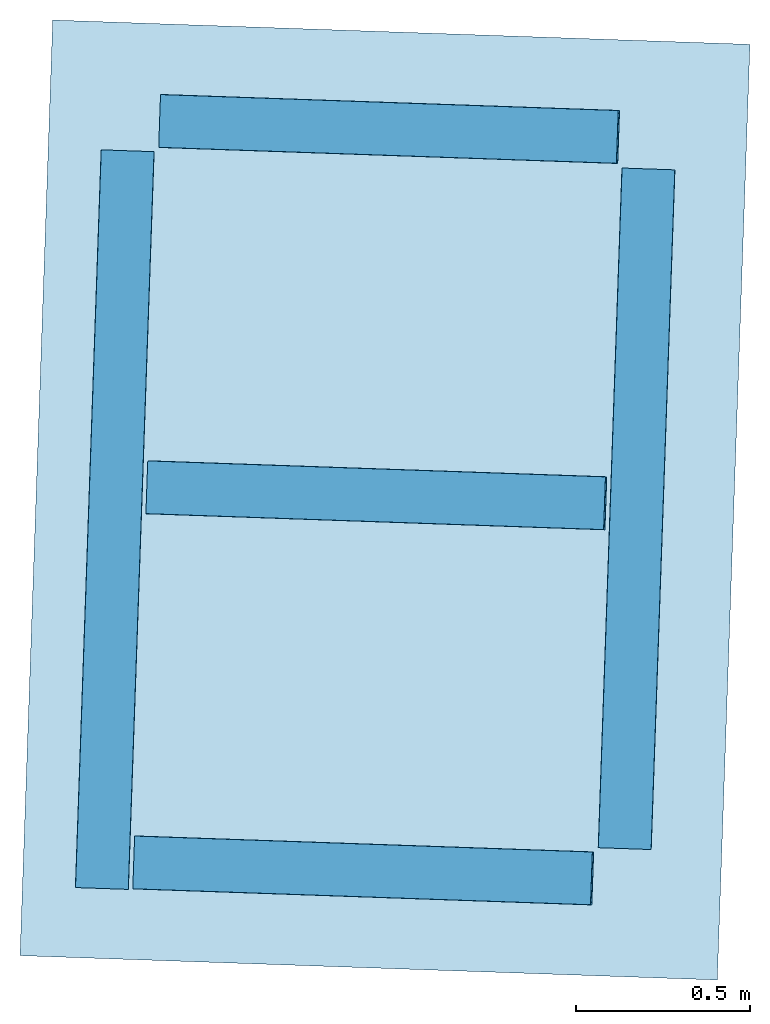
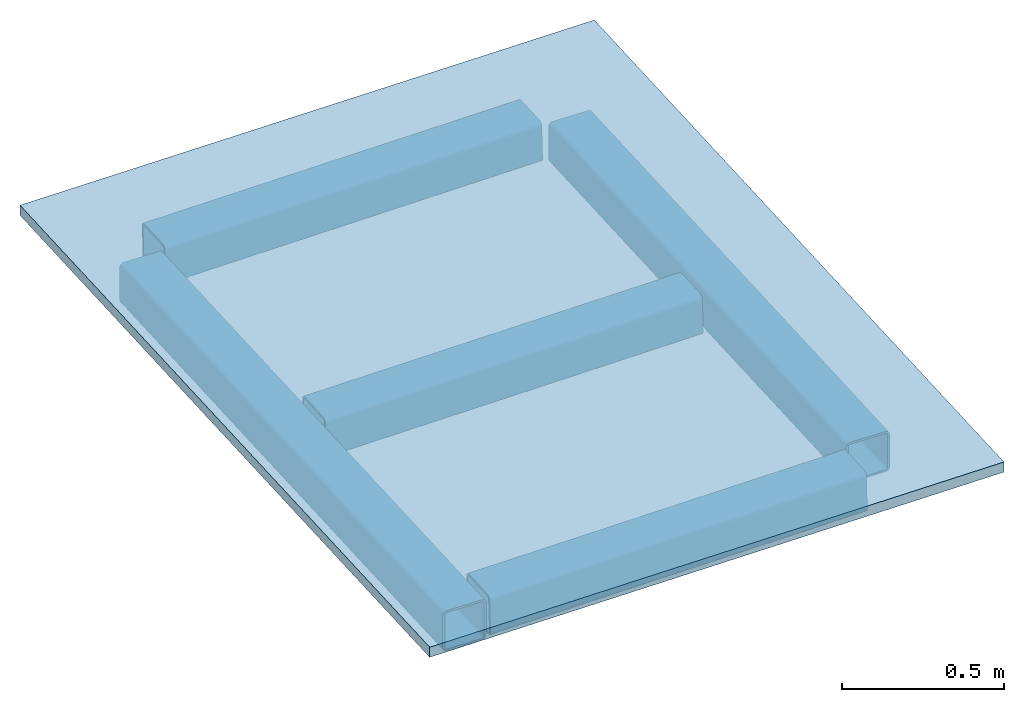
# One storey: 5 beams, 1 slab.
"""IFC2X3 building model written with IfcOpenShell, lengths in feet."""

from ifc_helpers import new_model, entity, si_unit, converted_unit, derived_unit, direction, frame, frame_2d, origin, place, context, subcontext, project, spatial, polyline, circle_curve, parameter, trimmed, segment, composite_curve, rectangle, outline, extrude, clip, halfspace, material, layer, layer_set, layer_usage, element, save


model = new_model("IFC2X3")

# Units and contexts
model_context = context("Model", 3, precision=0.0001, world=origin(), true_north=direction((0.999390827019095, 0.0348994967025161)))
body_context = subcontext(model_context, "Body", "Model", "MODEL_VIEW")
ifc_project = project(units=[converted_unit("LENGTHUNIT", "FOOT", entity("IfcRatioMeasure", 0.3048), si_unit("LENGTHUNIT", "METRE"), dimensions=[1, 0, 0, 0, 0, 0, 0]), converted_unit("AREAUNIT", "SQUARE FOOT", entity("IfcRatioMeasure", 0.09290304), si_unit("AREAUNIT", "SQUARE_METRE"), dimensions=[2, 0, 0, 0, 0, 0, 0]), converted_unit("VOLUMEUNIT", "CUBIC FOOT", entity("IfcRatioMeasure", 0.028316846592), si_unit("VOLUMEUNIT", "CUBIC_METRE"), dimensions=[3, 0, 0, 0, 0, 0, 0]), converted_unit("PLANEANGLEUNIT", "DEGREE", entity("IfcRatioMeasure", 0.0174532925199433), si_unit("PLANEANGLEUNIT", "RADIAN"), dimensions=[0, 0, 0, 0, 0, 0, 0]), si_unit("MASSUNIT", "GRAM", prefix="KILO"), si_unit("TIMEUNIT", "SECOND"), si_unit("FREQUENCYUNIT", "HERTZ"), si_unit("THERMODYNAMICTEMPERATUREUNIT", "DEGREE_CELSIUS"), derived_unit("THERMALTRANSMITTANCEUNIT", [(si_unit("MASSUNIT", "GRAM", prefix="KILO"), 1), (si_unit("THERMODYNAMICTEMPERATUREUNIT", "KELVIN"), -1), (si_unit("TIMEUNIT", "SECOND"), -3)]), derived_unit("VOLUMETRICFLOWRATEUNIT", [(si_unit("LENGTHUNIT", "METRE"), 3), (si_unit("TIMEUNIT", "SECOND"), -1)]), si_unit("ELECTRICCURRENTUNIT", "AMPERE"), si_unit("ELECTRICVOLTAGEUNIT", "VOLT"), si_unit("POWERUNIT", "WATT"), si_unit("FORCEUNIT", "NEWTON"), si_unit("ILLUMINANCEUNIT", "LUX"), si_unit("LUMINOUSFLUXUNIT", "LUMEN"), si_unit("LUMINOUSINTENSITYUNIT", "CANDELA"), derived_unit("USERDEFINED", [(si_unit("MASSUNIT", "GRAM", prefix="KILO"), -1), (si_unit("LENGTHUNIT", "METRE"), -2), (si_unit("TIMEUNIT", "SECOND"), 3), (si_unit("LUMINOUSFLUXUNIT", "LUMEN"), 1)]), derived_unit("LINEARVELOCITYUNIT", [(si_unit("LENGTHUNIT", "METRE"), 1), (si_unit("TIMEUNIT", "SECOND"), -1)]), si_unit("PRESSUREUNIT", "PASCAL"), derived_unit("USERDEFINED", [(si_unit("LENGTHUNIT", "METRE"), -2), (si_unit("MASSUNIT", "GRAM", prefix="KILO"), 1), (si_unit("TIMEUNIT", "SECOND"), -2)])], contexts=[model_context])

# Site, building, storey
site_placement = place(None, frame((892.518771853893, 322.38689265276, 0.00393700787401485), z_axis=(0.0, 0.0, 1.0), x_axis=(0.0348994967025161, 0.999390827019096, 0.0)))
site = spatial("IfcSite", under=ifc_project, at=site_placement, Name="Default", CompositionType="ELEMENT")
building_placement = place(site_placement, origin())
building = spatial("IfcBuilding", under=site, at=building_placement, CompositionType="ELEMENT")
storey_placement = place(building_placement, frame((0.0, 0.0, 617.0)))
storey = spatial("IfcBuildingStorey", under=building, at=storey_placement, Name="Exhaust Structure Roof", CompositionType="ELEMENT", Elevation=617.0)

# Beams
ifc_material_1 = material(Name="Metal - Steel - ASTM A500 - Grade B - Rectangular and Square")
beam_1_placement = place(storey_placement, frame((106.343959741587, 231.847286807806, 0.0), z_axis=(0.0, 0.0254155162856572, 0.999676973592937), x_axis=(0.0, 0.999676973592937, -0.0254155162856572)))
element("IfcBeam", 1, at=beam_1_placement, inside=storey, material=ifc_material_1, Name="05_HSS-Hollow Structural Section:HSS6x6x5/16", ObjectType="05_HSS-Hollow Structural Section:HSS6x6x5/16", context=body_context, shape_type="SweptSolid", body=[
    extrude(outline(composite_curve([segment(trimmed(circle_curve(frame_2d((-0.201500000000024, -0.201500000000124), x_axis=(1.0, 0.0)), 0.0485), [parameter(180.0)], [parameter(270.0)], True, "PARAMETER"), True, "CONTINUOUS"), segment(polyline([(-0.20150000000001, -0.250000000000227), (0.201499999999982, -0.250000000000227)]), True, "CONTINUOUS"), segment(trimmed(circle_curve(frame_2d((0.201499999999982, -0.201500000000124), x_axis=(1.0, 0.0)), 0.0485), [parameter(270.0)], [parameter(1.52666624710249e-13)], True, "PARAMETER"), True, "CONTINUOUS"), segment(polyline([(0.249999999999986, -0.201500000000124), (0.249999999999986, 0.201499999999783)]), True, "CONTINUOUS"), segment(trimmed(circle_curve(frame_2d((0.201499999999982, 0.201499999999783), x_axis=(1.0, 0.0)), 0.0485), [parameter(360.0)], [parameter(89.9999999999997)], True, "PARAMETER"), True, "CONTINUOUS"), segment(polyline([(0.201499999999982, 0.249999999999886), (-0.20150000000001, 0.249999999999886)]), True, "CONTINUOUS"), segment(trimmed(circle_curve(frame_2d((-0.201500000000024, 0.201499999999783), x_axis=(1.0, 0.0)), 0.0485), [parameter(90.0000000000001)], [parameter(180.0)], True, "PARAMETER"), True, "CONTINUOUS"), segment(polyline([(-0.250000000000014, 0.201499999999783), (-0.250000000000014, -0.201500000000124)]), True, "CONTINUOUS")], self_intersect=False), holes=[composite_curve([segment(polyline([(0.201499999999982, -0.225750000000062), (-0.20150000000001, -0.225750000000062)]), True, "CONTINUOUS"), segment(trimmed(circle_curve(frame_2d((-0.201500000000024, -0.201500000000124), x_axis=(1.0, 0.0)), 0.02425), [parameter(180.0)], [parameter(270.0)], True, "PARAMETER"), False, "CONTINUOUS"), segment(polyline([(-0.225750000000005, -0.201500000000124), (-0.225750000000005, 0.201499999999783)]), True, "CONTINUOUS"), segment(trimmed(circle_curve(frame_2d((-0.201500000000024, 0.201499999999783), x_axis=(1.0, 0.0)), 0.02425), [parameter(90.0000000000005)], [parameter(180.0)], True, "PARAMETER"), False, "CONTINUOUS"), segment(polyline([(-0.20150000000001, 0.225749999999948), (0.201499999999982, 0.225749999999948)]), True, "CONTINUOUS"), segment(trimmed(circle_curve(frame_2d((0.201499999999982, 0.201499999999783), x_axis=(1.0, 0.0)), 0.02425), [parameter(0.0)], [parameter(90.0000000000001)], True, "PARAMETER"), False, "CONTINUOUS"), segment(polyline([(0.225749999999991, 0.201499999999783), (0.225749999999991, -0.201500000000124)]), True, "CONTINUOUS"), segment(trimmed(circle_curve(frame_2d((0.201499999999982, -0.201500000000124), x_axis=(1.0, 0.0)), 0.02425), [parameter(270.0)], [parameter(4.07110999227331e-13)], True, "PARAMETER"), False, "CONTINUOUS")], self_intersect=False)]), frame((0.304459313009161, 0.0, -0.250000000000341), z_axis=(1.0, 0.0, 0.0), x_axis=(0.0, -1.0, 0.0)), (0.0, 0.0, 1.0), 4.3222101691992),
])
beam_2_placement = place(storey_placement, frame((113.343963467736, 231.847286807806, 0.0), z_axis=(0.0, 0.025415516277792, 0.999676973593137), x_axis=(0.0, 0.999676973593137, -0.025415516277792)))
element("IfcBeam", 2, at=beam_2_placement, inside=storey, material=ifc_material_1, Name="05_HSS-Hollow Structural Section:HSS6x6x5/16", ObjectType="05_HSS-Hollow Structural Section:HSS6x6x5/16", context=body_context, shape_type="SweptSolid", body=[
    extrude(outline(composite_curve([segment(trimmed(circle_curve(frame_2d((-0.201499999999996, -0.20150000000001), x_axis=(1.0, 0.0)), 0.0485), [parameter(180.0)], [parameter(270.0)], True, "PARAMETER"), True, "CONTINUOUS"), segment(polyline([(-0.201499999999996, -0.250000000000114), (0.201499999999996, -0.250000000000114)]), True, "CONTINUOUS"), segment(trimmed(circle_curve(frame_2d((0.20150000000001, -0.20150000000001), x_axis=(1.0, 0.0)), 0.0485), [parameter(270.0)], [parameter(1.52666624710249e-13)], True, "PARAMETER"), True, "CONTINUOUS"), segment(polyline([(0.25, -0.20150000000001), (0.25, 0.20150000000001)]), True, "CONTINUOUS"), segment(trimmed(circle_curve(frame_2d((0.20150000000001, 0.20150000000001), x_axis=(1.0, 0.0)), 0.0485), [parameter(360.0)], [parameter(89.9999999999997)], True, "PARAMETER"), True, "CONTINUOUS"), segment(polyline([(0.201499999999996, 0.249999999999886), (-0.201499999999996, 0.249999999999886)]), True, "CONTINUOUS"), segment(trimmed(circle_curve(frame_2d((-0.201499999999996, 0.20150000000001), x_axis=(1.0, 0.0)), 0.0485), [parameter(90.0000000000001)], [parameter(180.0)], True, "PARAMETER"), True, "CONTINUOUS"), segment(polyline([(-0.25, 0.20150000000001), (-0.25, -0.20150000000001)]), True, "CONTINUOUS")], self_intersect=False), holes=[composite_curve([segment(polyline([(0.201499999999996, -0.225750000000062), (-0.201499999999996, -0.225750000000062)]), True, "CONTINUOUS"), segment(trimmed(circle_curve(frame_2d((-0.201499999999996, -0.20150000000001), x_axis=(1.0, 0.0)), 0.02425), [parameter(180.0)], [parameter(270.0)], True, "PARAMETER"), False, "CONTINUOUS"), segment(polyline([(-0.225749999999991, -0.20150000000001), (-0.225749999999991, 0.20150000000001)]), True, "CONTINUOUS"), segment(trimmed(circle_curve(frame_2d((-0.201499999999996, 0.20150000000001), x_axis=(1.0, 0.0)), 0.02425), [parameter(90.0000000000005)], [parameter(180.0)], True, "PARAMETER"), False, "CONTINUOUS"), segment(polyline([(-0.201499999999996, 0.225749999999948), (0.201499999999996, 0.225749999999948)]), True, "CONTINUOUS"), segment(trimmed(circle_curve(frame_2d((0.20150000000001, 0.20150000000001), x_axis=(1.0, 0.0)), 0.02425), [parameter(0.0)], [parameter(90.0000000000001)], True, "PARAMETER"), False, "CONTINUOUS"), segment(polyline([(0.225750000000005, 0.20150000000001), (0.225750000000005, -0.20150000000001)]), True, "CONTINUOUS"), segment(trimmed(circle_curve(frame_2d((0.20150000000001, -0.20150000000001), x_axis=(1.0, 0.0)), 0.02425), [parameter(270.0)], [parameter(4.07110999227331e-13)], True, "PARAMETER"), False, "CONTINUOUS")], self_intersect=False)]), frame((0.304459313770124, 0.0, -0.250000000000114), z_axis=(1.0, 0.0, 0.0), x_axis=(0.0, -1.0, 0.0)), (0.0, 0.0, 1.0), 4.32221016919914),
])
beam_3_placement = place(storey_placement, frame((113.343963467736, 231.847286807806, 0.0), z_axis=(0.0, 0.0, 1.0), x_axis=(-1.0, 0.0, 0.0)))
element("IfcBeam", 3, at=beam_3_placement, inside=storey, material=ifc_material_1, Name="05_HSS-Hollow Structural Section:HSS6x6x5/16", ObjectType="05_HSS-Hollow Structural Section:HSS6x6x5/16", context=body_context, shape_type="SweptSolid", body=[
    extrude(outline(composite_curve([segment(trimmed(circle_curve(frame_2d((-0.201500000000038, -0.20150000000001), x_axis=(1.0, 0.0)), 0.0485), [parameter(180.0)], [parameter(270.0)], True, "PARAMETER"), True, "CONTINUOUS"), segment(polyline([(-0.201500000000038, -0.25), (0.201499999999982, -0.25)]), True, "CONTINUOUS"), segment(trimmed(circle_curve(frame_2d((0.201499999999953, -0.20150000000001), x_axis=(1.0, 0.0)), 0.0485), [parameter(270.0)], [parameter(1.52666624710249e-13)], True, "PARAMETER"), True, "CONTINUOUS"), segment(polyline([(0.249999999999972, -0.20150000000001), (0.249999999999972, 0.20150000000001)]), True, "CONTINUOUS"), segment(trimmed(circle_curve(frame_2d((0.201499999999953, 0.20150000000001), x_axis=(1.0, 0.0)), 0.0485), [parameter(360.0)], [parameter(89.9999999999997)], True, "PARAMETER"), True, "CONTINUOUS"), segment(polyline([(0.201499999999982, 0.25), (-0.201500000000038, 0.25)]), True, "CONTINUOUS"), segment(trimmed(circle_curve(frame_2d((-0.201500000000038, 0.20150000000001), x_axis=(1.0, 0.0)), 0.0485), [parameter(90.0000000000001)], [parameter(180.0)], True, "PARAMETER"), True, "CONTINUOUS"), segment(polyline([(-0.250000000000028, 0.20150000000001), (-0.250000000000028, -0.20150000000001)]), True, "CONTINUOUS")], self_intersect=False), holes=[composite_curve([segment(polyline([(0.201499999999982, -0.225749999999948), (-0.201500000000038, -0.225749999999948)]), True, "CONTINUOUS"), segment(trimmed(circle_curve(frame_2d((-0.201500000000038, -0.20150000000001), x_axis=(1.0, 0.0)), 0.02425), [parameter(180.0)], [parameter(270.0)], True, "PARAMETER"), False, "CONTINUOUS"), segment(polyline([(-0.225750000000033, -0.20150000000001), (-0.225750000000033, 0.20150000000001)]), True, "CONTINUOUS"), segment(trimmed(circle_curve(frame_2d((-0.201500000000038, 0.20150000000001), x_axis=(1.0, 0.0)), 0.02425), [parameter(90.0000000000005)], [parameter(180.0)], True, "PARAMETER"), False, "CONTINUOUS"), segment(polyline([(-0.201500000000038, 0.225750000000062), (0.201499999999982, 0.225750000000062)]), True, "CONTINUOUS"), segment(trimmed(circle_curve(frame_2d((0.201499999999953, 0.20150000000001), x_axis=(1.0, 0.0)), 0.02425), [parameter(0.0)], [parameter(90.0000000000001)], True, "PARAMETER"), False, "CONTINUOUS"), segment(polyline([(0.225749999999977, 0.20150000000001), (0.225749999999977, -0.20150000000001)]), True, "CONTINUOUS"), segment(trimmed(circle_curve(frame_2d((0.201499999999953, -0.20150000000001), x_axis=(1.0, 0.0)), 0.02425), [parameter(270.0)], [parameter(4.07110999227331e-13)], True, "PARAMETER"), False, "CONTINUOUS")], self_intersect=False)]), frame((0.291666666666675, 0.0, -0.25), z_axis=(1.0, 0.0, 0.0), x_axis=(0.0, -1.0, 0.0)), (0.0, 0.0, 1.0), 6.41667039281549),
])
beam_4_placement = place(storey_placement, frame((113.343963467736, 236.76395347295, -0.125), z_axis=(0.0, 0.0, 1.0), x_axis=(-1.0, 0.0, 0.0)))
element("IfcBeam", 4, at=beam_4_placement, inside=storey, material=ifc_material_1, Name="05_HSS-Hollow Structural Section:HSS6x6x5/16", ObjectType="05_HSS-Hollow Structural Section:HSS6x6x5/16", context=body_context, shape_type="SweptSolid", body=[
    extrude(outline(composite_curve([segment(trimmed(circle_curve(frame_2d((-0.201499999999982, -0.20150000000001), x_axis=(1.0, 0.0)), 0.0485), [parameter(180.0)], [parameter(270.0)], True, "PARAMETER"), True, "CONTINUOUS"), segment(polyline([(-0.20150000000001, -0.25), (0.20150000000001, -0.25)]), True, "CONTINUOUS"), segment(trimmed(circle_curve(frame_2d((0.20150000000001, -0.20150000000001), x_axis=(1.0, 0.0)), 0.0485), [parameter(270.0)], [parameter(1.52666624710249e-13)], True, "PARAMETER"), True, "CONTINUOUS"), segment(polyline([(0.25, -0.20150000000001), (0.25, 0.20150000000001)]), True, "CONTINUOUS"), segment(trimmed(circle_curve(frame_2d((0.20150000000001, 0.20150000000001), x_axis=(1.0, 0.0)), 0.0485), [parameter(360.0)], [parameter(89.9999999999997)], True, "PARAMETER"), True, "CONTINUOUS"), segment(polyline([(0.20150000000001, 0.25), (-0.20150000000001, 0.25)]), True, "CONTINUOUS"), segment(trimmed(circle_curve(frame_2d((-0.201499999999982, 0.20150000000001), x_axis=(1.0, 0.0)), 0.0485), [parameter(90.0000000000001)], [parameter(180.0)], True, "PARAMETER"), True, "CONTINUOUS"), segment(polyline([(-0.25, 0.20150000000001), (-0.25, -0.20150000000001)]), True, "CONTINUOUS")], self_intersect=False), holes=[composite_curve([segment(polyline([(0.20150000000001, -0.225749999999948), (-0.20150000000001, -0.225749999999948)]), True, "CONTINUOUS"), segment(trimmed(circle_curve(frame_2d((-0.201499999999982, -0.20150000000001), x_axis=(1.0, 0.0)), 0.02425), [parameter(180.0)], [parameter(270.0)], True, "PARAMETER"), False, "CONTINUOUS"), segment(polyline([(-0.225750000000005, -0.20150000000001), (-0.225750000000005, 0.20150000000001)]), True, "CONTINUOUS"), segment(trimmed(circle_curve(frame_2d((-0.201499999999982, 0.20150000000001), x_axis=(1.0, 0.0)), 0.02425), [parameter(90.0000000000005)], [parameter(180.0)], True, "PARAMETER"), False, "CONTINUOUS"), segment(polyline([(-0.20150000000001, 0.225750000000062), (0.20150000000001, 0.225750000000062)]), True, "CONTINUOUS"), segment(trimmed(circle_curve(frame_2d((0.20150000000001, 0.20150000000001), x_axis=(1.0, 0.0)), 0.02425), [parameter(0.0)], [parameter(90.0000000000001)], True, "PARAMETER"), False, "CONTINUOUS"), segment(polyline([(0.225750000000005, 0.20150000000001), (0.225750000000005, -0.20150000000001)]), True, "CONTINUOUS"), segment(trimmed(circle_curve(frame_2d((0.20150000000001, -0.20150000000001), x_axis=(1.0, 0.0)), 0.02425), [parameter(270.0)], [parameter(4.07110999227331e-13)], True, "PARAMETER"), False, "CONTINUOUS")], self_intersect=False)]), frame((0.291666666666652, 0.0, -0.25), z_axis=(1.0, 0.0, 0.0), x_axis=(0.0, -1.0, 0.0)), (0.0, 0.0, 1.0), 6.96462446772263),
])
beam_5_placement = place(storey_placement, frame((109.885628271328, 231.847286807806, 0.0), z_axis=(0.0, 0.0254155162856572, 0.999676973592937), x_axis=(0.0, 0.999676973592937, -0.0254155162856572)))
element("IfcBeam", 5, at=beam_5_placement, inside=storey, material=ifc_material_1, Name="05_HSS-Hollow Structural Section:HSS6x6x5/16", ObjectType="05_HSS-Hollow Structural Section:HSS6x6x5/16", context=body_context, shape_type="SweptSolid", body=[
    extrude(outline(composite_curve([segment(trimmed(circle_curve(frame_2d((-0.20150000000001, -0.201500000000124), x_axis=(1.0, 0.0)), 0.0485), [parameter(180.0)], [parameter(270.0)], True, "PARAMETER"), True, "CONTINUOUS"), segment(polyline([(-0.20150000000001, -0.250000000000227), (0.201499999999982, -0.250000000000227)]), True, "CONTINUOUS"), segment(trimmed(circle_curve(frame_2d((0.201499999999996, -0.201500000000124), x_axis=(1.0, 0.0)), 0.0485), [parameter(270.0)], [parameter(1.52666624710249e-13)], True, "PARAMETER"), True, "CONTINUOUS"), segment(polyline([(0.249999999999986, -0.201500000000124), (0.249999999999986, 0.201499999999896)]), True, "CONTINUOUS"), segment(trimmed(circle_curve(frame_2d((0.201499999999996, 0.201499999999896), x_axis=(1.0, 0.0)), 0.0485), [parameter(360.0)], [parameter(89.9999999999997)], True, "PARAMETER"), True, "CONTINUOUS"), segment(polyline([(0.201499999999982, 0.249999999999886), (-0.20150000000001, 0.249999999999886)]), True, "CONTINUOUS"), segment(trimmed(circle_curve(frame_2d((-0.20150000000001, 0.201499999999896), x_axis=(1.0, 0.0)), 0.0485), [parameter(90.0000000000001)], [parameter(180.0)], True, "PARAMETER"), True, "CONTINUOUS"), segment(polyline([(-0.250000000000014, 0.201499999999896), (-0.250000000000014, -0.201500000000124)]), True, "CONTINUOUS")], self_intersect=False), holes=[composite_curve([segment(polyline([(0.201499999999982, -0.225750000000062), (-0.20150000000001, -0.225750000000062)]), True, "CONTINUOUS"), segment(trimmed(circle_curve(frame_2d((-0.20150000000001, -0.201500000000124), x_axis=(1.0, 0.0)), 0.02425), [parameter(180.0)], [parameter(270.0)], True, "PARAMETER"), False, "CONTINUOUS"), segment(polyline([(-0.225750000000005, -0.201500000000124), (-0.225750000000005, 0.201499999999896)]), True, "CONTINUOUS"), segment(trimmed(circle_curve(frame_2d((-0.20150000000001, 0.201499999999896), x_axis=(1.0, 0.0)), 0.02425), [parameter(90.0000000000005)], [parameter(180.0)], True, "PARAMETER"), False, "CONTINUOUS"), segment(polyline([(-0.20150000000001, 0.225749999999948), (0.201499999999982, 0.225749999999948)]), True, "CONTINUOUS"), segment(trimmed(circle_curve(frame_2d((0.201499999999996, 0.201499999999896), x_axis=(1.0, 0.0)), 0.02425), [parameter(0.0)], [parameter(90.0000000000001)], True, "PARAMETER"), False, "CONTINUOUS"), segment(polyline([(0.225749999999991, 0.201499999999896), (0.225749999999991, -0.201500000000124)]), True, "CONTINUOUS"), segment(trimmed(circle_curve(frame_2d((0.201499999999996, -0.201500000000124), x_axis=(1.0, 0.0)), 0.02425), [parameter(270.0)], [parameter(4.07110999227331e-13)], True, "PARAMETER"), False, "CONTINUOUS")], self_intersect=False)]), frame((0.304293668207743, 0.0, -0.250000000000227), z_axis=(1.0, 0.0, 0.0), x_axis=(0.0, -1.0, 0.0)), (0.0, 0.0, 1.0), 4.32237581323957),
])

# Slab
ifc_material_2 = material(Name="Metal - Deck")
ifc_layer = layer(ifc_material_2, 0.125)
ifc_layer_set = layer_set([ifc_layer], Name="Floor:1.5\" Metal Deck")
ifc_layer_usage = layer_usage(ifc_layer_set, "AXIS3", "POSITIVE", 0.0)
slab_placement = place(storey_placement, origin())
element("IfcSlab", 6, at=slab_placement, inside=storey, material=ifc_layer_usage, Name="Floor:1.5\" Metal Deck", ObjectType="Floor:1.5\" Metal Deck", PredefinedType="FLOOR", context=body_context, shape_type="Clipping", body=[
    clip(clip(extrude(rectangle(XDim=6.58451993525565, YDim=8.83333705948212, at=frame_2d((-2.8421709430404e-14, 0.0), x_axis=(1.0, 0.0))), frame((109.843961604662, 234.222286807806, 0.0729166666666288), z_axis=(0.0, -0.0189839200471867, -0.999819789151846), x_axis=(0.0, 0.999819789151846, -0.0189839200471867)), (0.0189839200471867, 0.0, 0.999819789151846), 0.125022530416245), halfspace(frame((109.843961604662, 234.222286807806, -0.0520833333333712), z_axis=(0.0, -0.0189839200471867, -0.999819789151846), x_axis=(1.0, 0.0, 0.0)), False)), halfspace(frame((109.843961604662, 234.222286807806, 0.0729166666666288), z_axis=(0.0, 0.0189839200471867, 0.999819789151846), x_axis=(1.0, 0.0, 0.0)), False)),
])

save(model, "model.ifc")
